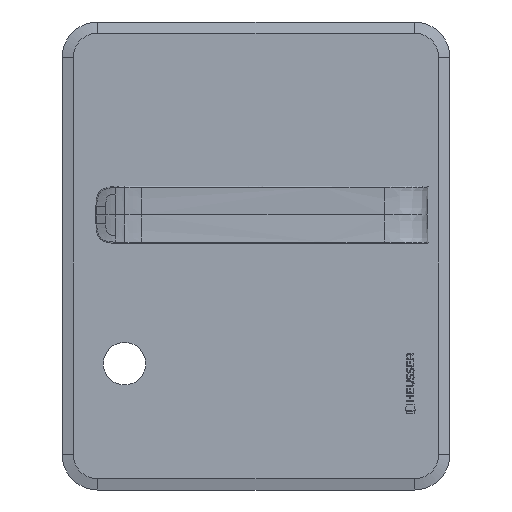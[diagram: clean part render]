
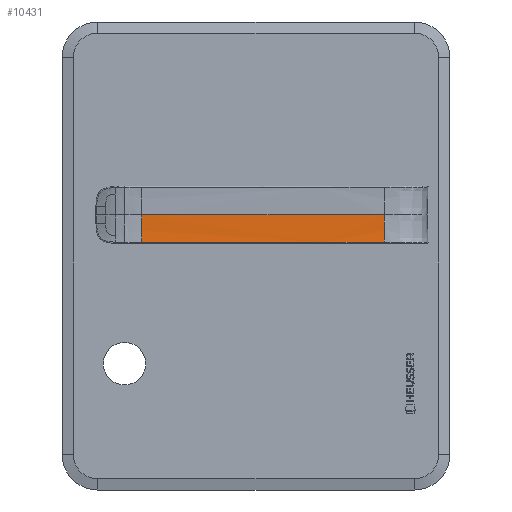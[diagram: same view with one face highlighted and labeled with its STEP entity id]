
A CAD part, top view. The second image highlights one B-rep face of the part: STEP entity #10431.
In plain terms, the highlighted free-form (B-spline) face has degree [5, 1] with [6, 2] control points.
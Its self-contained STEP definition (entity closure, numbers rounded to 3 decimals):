
#183=B_SPLINE_SURFACE_WITH_KNOTS('',5,1,((#22481,#22482),(#22483,#22484),
(#22485,#22486),(#22487,#22488),(#22489,#22490),(#22491,#22492)),
 .UNSPECIFIED.,.F.,.F.,.F.,(6,6),(2,2),(0.,1.),(0.,1.),.UNSPECIFIED.);
#546=B_SPLINE_CURVE_WITH_KNOTS('',3,(#19866,#19867,#19868,#19869,#19870,
#19871,#19872,#19873,#19874,#19875,#19876,#19877,#19878,#19879,#19880,#19881,
#19882,#19883,#19884),.UNSPECIFIED.,.F.,.F.,(4,3,3,3,3,3,4),(0.,0.398,
0.558,0.796,0.914,1.195,
3.187),.UNSPECIFIED.);
#547=B_SPLINE_CURVE_WITH_KNOTS('',3,(#19886,#19887,#19888,#19889,#19890,
#19891,#19892,#19893,#19894,#19895,#19896,#19897,#19898),.UNSPECIFIED.,
 .F.,.F.,(4,3,3,3,4),(3.187,11.154,11.571,
11.951,12.747),.UNSPECIFIED.);
#572=B_SPLINE_CURVE_WITH_KNOTS('',5,(#22144,#22145,#22146,#22147,#22148,
#22149),.UNSPECIFIED.,.F.,.F.,(6,6),(0.034,0.5),
 .UNSPECIFIED.);
#585=B_SPLINE_CURVE_WITH_KNOTS('',5,(#22493,#22494,#22495,#22496,#22497,
#22498),.UNSPECIFIED.,.F.,.F.,(6,6),(0.034,0.5),
 .UNSPECIFIED.);
#1264=LINE('',#22474,#2114);
#2114=VECTOR('',#12558,10.);
#2966=FACE_OUTER_BOUND('',#3622,.T.);
#3622=EDGE_LOOP('',(#8306,#8307,#8308,#8309,#8310));
#4588=VERTEX_POINT('',#19797);
#4589=VERTEX_POINT('',#19865);
#4590=VERTEX_POINT('',#19885);
#4607=VERTEX_POINT('',#22094);
#4616=VERTEX_POINT('',#22473);
#5859=EDGE_CURVE('',#4588,#4589,#546,.T.);
#5860=EDGE_CURVE('',#4589,#4590,#547,.T.);
#5889=EDGE_CURVE('',#4590,#4607,#572,.T.);
#5905=EDGE_CURVE('',#4607,#4616,#1264,.T.);
#5907=EDGE_CURVE('',#4588,#4616,#585,.T.);
#8306=ORIENTED_EDGE('',*,*,#5889,.F.);
#8307=ORIENTED_EDGE('',*,*,#5860,.F.);
#8308=ORIENTED_EDGE('',*,*,#5859,.F.);
#8309=ORIENTED_EDGE('',*,*,#5907,.T.);
#8310=ORIENTED_EDGE('',*,*,#5905,.F.);
#10431=ADVANCED_FACE('',(#2966),#183,.F.);
#12558=DIRECTION('',(1.,0.001,-0.004));
#19797=CARTESIAN_POINT('',(45.225,11.86,99.926));
#19865=CARTESIAN_POINT('',(13.357,11.837,100.062));
#19866=CARTESIAN_POINT('Ctrl Pts',(45.225,11.86,99.926));
#19867=CARTESIAN_POINT('Ctrl Pts',(43.897,11.859,99.931));
#19868=CARTESIAN_POINT('Ctrl Pts',(42.569,11.858,99.937));
#19869=CARTESIAN_POINT('Ctrl Pts',(41.241,11.857,99.943));
#19870=CARTESIAN_POINT('Ctrl Pts',(40.689,11.857,99.945));
#19871=CARTESIAN_POINT('Ctrl Pts',(40.137,11.856,99.947));
#19872=CARTESIAN_POINT('Ctrl Pts',(39.585,11.856,99.95));
#19873=CARTESIAN_POINT('Ctrl Pts',(38.81,11.855,99.953));
#19874=CARTESIAN_POINT('Ctrl Pts',(38.036,11.855,99.956));
#19875=CARTESIAN_POINT('Ctrl Pts',(37.261,11.854,99.96));
#19876=CARTESIAN_POINT('Ctrl Pts',(36.849,11.854,99.961));
#19877=CARTESIAN_POINT('Ctrl Pts',(36.437,11.854,99.963));
#19878=CARTESIAN_POINT('Ctrl Pts',(36.025,11.853,99.965));
#19879=CARTESIAN_POINT('Ctrl Pts',(35.109,11.853,99.969));
#19880=CARTESIAN_POINT('Ctrl Pts',(34.193,11.852,99.973));
#19881=CARTESIAN_POINT('Ctrl Pts',(33.277,11.851,99.977));
#19882=CARTESIAN_POINT('Ctrl Pts',(26.637,11.847,100.005));
#19883=CARTESIAN_POINT('Ctrl Pts',(19.997,11.842,100.034));
#19884=CARTESIAN_POINT('Ctrl Pts',(13.357,11.837,100.062));
#19885=CARTESIAN_POINT('',(-82.248,11.768,100.472));
#19886=CARTESIAN_POINT('Ctrl Pts',(13.357,11.837,100.062));
#19887=CARTESIAN_POINT('Ctrl Pts',(-13.2,11.818,100.176));
#19888=CARTESIAN_POINT('Ctrl Pts',(-39.757,11.798,100.29));
#19889=CARTESIAN_POINT('Ctrl Pts',(-66.315,11.779,100.404));
#19890=CARTESIAN_POINT('Ctrl Pts',(-67.693,11.778,100.41));
#19891=CARTESIAN_POINT('Ctrl Pts',(-69.071,11.777,100.416));
#19892=CARTESIAN_POINT('Ctrl Pts',(-70.449,11.776,100.422));
#19893=CARTESIAN_POINT('Ctrl Pts',(-71.726,11.775,100.427));
#19894=CARTESIAN_POINT('Ctrl Pts',(-73.004,11.774,100.433));
#19895=CARTESIAN_POINT('Ctrl Pts',(-74.281,11.774,100.438));
#19896=CARTESIAN_POINT('Ctrl Pts',(-76.937,11.772,100.449));
#19897=CARTESIAN_POINT('Ctrl Pts',(-79.593,11.77,100.461));
#19898=CARTESIAN_POINT('Ctrl Pts',(-82.248,11.768,100.472));
#22094=CARTESIAN_POINT('',(-82.259,26.157,99.938));
#22144=CARTESIAN_POINT('Ctrl Pts',(-82.248,11.768,100.472));
#22145=CARTESIAN_POINT('Ctrl Pts',(-82.25,13.557,100.194));
#22146=CARTESIAN_POINT('Ctrl Pts',(-82.252,16.058,100.049));
#22147=CARTESIAN_POINT('Ctrl Pts',(-82.254,19.208,99.975));
#22148=CARTESIAN_POINT('Ctrl Pts',(-82.256,22.682,99.938));
#22149=CARTESIAN_POINT('Ctrl Pts',(-82.259,26.157,99.938));
#22473=CARTESIAN_POINT('',(45.215,26.249,99.391));
#22474=CARTESIAN_POINT('',(-82.259,26.157,99.938));
#22481=CARTESIAN_POINT('Ctrl Pts',(45.204,41.249,100.034));
#22482=CARTESIAN_POINT('Ctrl Pts',(-82.27,41.157,100.581));
#22483=CARTESIAN_POINT('Ctrl Pts',(45.206,37.857,99.348));
#22484=CARTESIAN_POINT('Ctrl Pts',(-82.267,37.764,99.895));
#22485=CARTESIAN_POINT('Ctrl Pts',(45.211,31.149,99.348));
#22486=CARTESIAN_POINT('Ctrl Pts',(-82.262,31.057,99.895));
#22487=CARTESIAN_POINT('Ctrl Pts',(45.218,21.349,99.348));
#22488=CARTESIAN_POINT('Ctrl Pts',(-82.255,21.257,99.895));
#22489=CARTESIAN_POINT('Ctrl Pts',(45.223,14.642,99.348));
#22490=CARTESIAN_POINT('Ctrl Pts',(-82.25,14.55,99.895));
#22491=CARTESIAN_POINT('Ctrl Pts',(45.225,11.249,100.034));
#22492=CARTESIAN_POINT('Ctrl Pts',(-82.248,11.157,100.581));
#22493=CARTESIAN_POINT('Ctrl Pts',(45.225,11.86,99.926));
#22494=CARTESIAN_POINT('Ctrl Pts',(45.224,13.649,99.647));
#22495=CARTESIAN_POINT('Ctrl Pts',(45.222,16.15,99.503));
#22496=CARTESIAN_POINT('Ctrl Pts',(45.22,19.3,99.428));
#22497=CARTESIAN_POINT('Ctrl Pts',(45.217,22.775,99.391));
#22498=CARTESIAN_POINT('Ctrl Pts',(45.215,26.249,99.391));
